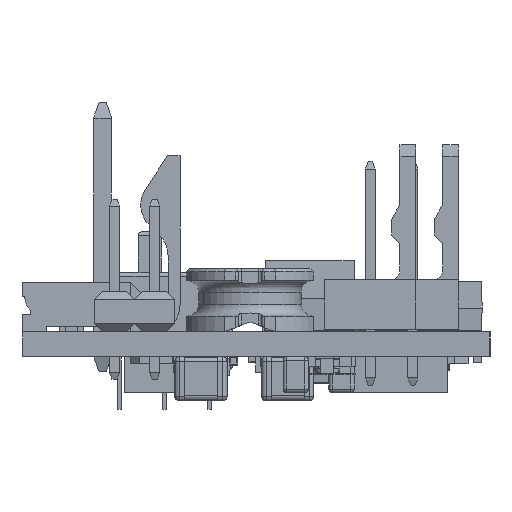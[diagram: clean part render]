
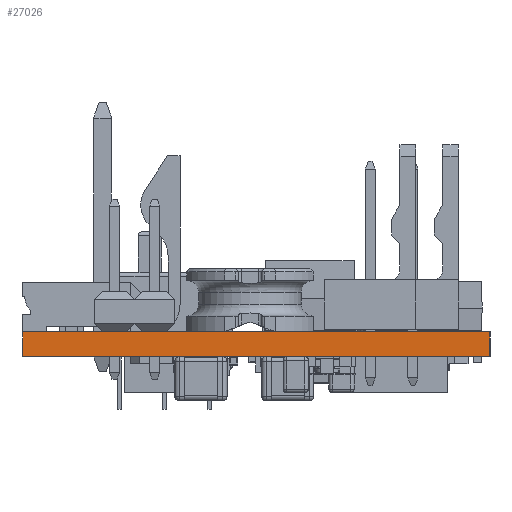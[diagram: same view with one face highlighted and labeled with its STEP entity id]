
A CAD part, left-side view. The second image highlights one B-rep face of the part: STEP entity #27026.
In plain terms, the highlighted planar face has unit normal (-1, 0, 0).
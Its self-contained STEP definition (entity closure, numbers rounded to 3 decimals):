
#1161=PLANE('',#29158);
#2189=FACE_OUTER_BOUND('',#3716,.T.);
#3716=EDGE_LOOP('',(#18341,#18342,#18343,#18344));
#5485=LINE('',#39699,#8110);
#5493=LINE('',#39714,#8118);
#5494=LINE('',#39716,#8119);
#5495=LINE('',#39717,#8120);
#8110=VECTOR('',#32081,10.);
#8118=VECTOR('',#32093,10.);
#8119=VECTOR('',#32096,10.);
#8120=VECTOR('',#32097,10.);
#11711=VERTEX_POINT('',#39696);
#11712=VERTEX_POINT('',#39698);
#11716=VERTEX_POINT('',#39710);
#11717=VERTEX_POINT('',#39712);
#14326=EDGE_CURVE('',#11711,#11712,#5485,.T.);
#14334=EDGE_CURVE('',#11716,#11717,#5493,.T.);
#14335=EDGE_CURVE('',#11711,#11716,#5494,.T.);
#14336=EDGE_CURVE('',#11712,#11717,#5495,.T.);
#18341=ORIENTED_EDGE('',*,*,#14335,.T.);
#18342=ORIENTED_EDGE('',*,*,#14334,.T.);
#18343=ORIENTED_EDGE('',*,*,#14336,.F.);
#18344=ORIENTED_EDGE('',*,*,#14326,.F.);
#27026=ADVANCED_FACE('',(#2189),#1161,.T.);
#29158=AXIS2_PLACEMENT_3D('',#39715,#32094,#32095);
#32081=DIRECTION('',(0.,0.,1.));
#32093=DIRECTION('',(0.,0.,1.));
#32094=DIRECTION('center_axis',(-1.,0.,0.));
#32095=DIRECTION('ref_axis',(0.,-1.,0.));
#32096=DIRECTION('',(0.,-1.,0.));
#32097=DIRECTION('',(0.,-1.,0.));
#39696=CARTESIAN_POINT('',(0.2,29.8,0.));
#39698=CARTESIAN_POINT('',(0.2,29.8,1.57));
#39699=CARTESIAN_POINT('',(0.2,29.8,0.));
#39710=CARTESIAN_POINT('',(0.2,0.2,0.));
#39712=CARTESIAN_POINT('',(0.2,0.2,1.57));
#39714=CARTESIAN_POINT('',(0.2,0.2,0.));
#39715=CARTESIAN_POINT('Origin',(0.2,29.8,0.));
#39716=CARTESIAN_POINT('',(0.2,29.8,0.));
#39717=CARTESIAN_POINT('',(0.2,29.8,1.57));
